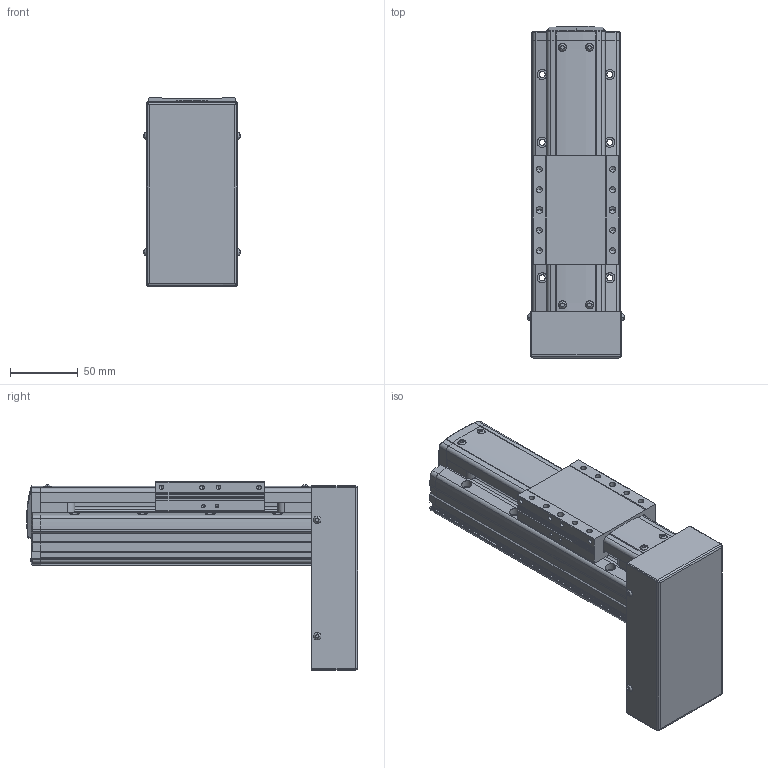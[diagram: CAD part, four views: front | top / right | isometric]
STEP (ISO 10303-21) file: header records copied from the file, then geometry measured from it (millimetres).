
FILE_DESCRIPTION(('STEP AP214'),'1');
FILE_NAME('Z:/Web/3D/PSA65/STP/PSA65-050 (3D)/PSA65ㅁㅁ-050PB.stp','2014-06-25T02:49:56',(' '),(' '),'Spatial InterOp 3D',' ',' ');
FILE_SCHEMA(('automotive_design'));
Length unit declared in the file: millimetre
Products named in the file (49): SLIDE; RRCV-PA060; 1; 2; 3; 4; 5; 6; 7; 8; 9; 10; 11; 12; 13; 14; 15; 16; 17; 18; 19; 20; 21; 22; 23; 24; 25; 26; 27; 28; 29; 30; 31; 스크루 : Round - M3.0 x 8.0; RN8 x 0.75; SHAFT-SAN65; BASE; 스크루 : Round - M3.0 x 6.0; BTCV-SAN65; M3.0 x 6.0
Bounding box: 71.13 x 244.8 x 139 mm (x, y, z)
Volume: 975131.9 mm3; surface area: 147180.7 mm2
Topology: 49 solids, 49 shells, 1645 faces, 4347 edges, 2785 vertices
Faces by surface type: plane 1028, cylinder 415, cone 137, sphere 30, bspline 19, torus 16
Entity records: 65418 total; most frequent: CARTESIAN_POINT 10437, DIRECTION 8612, ORIENTED_EDGE 8518, EDGE_CURVE 4259, LINE 3092, VECTOR 3092, VERTEX_POINT 2785, AXIS2_PLACEMENT_3D 2760
